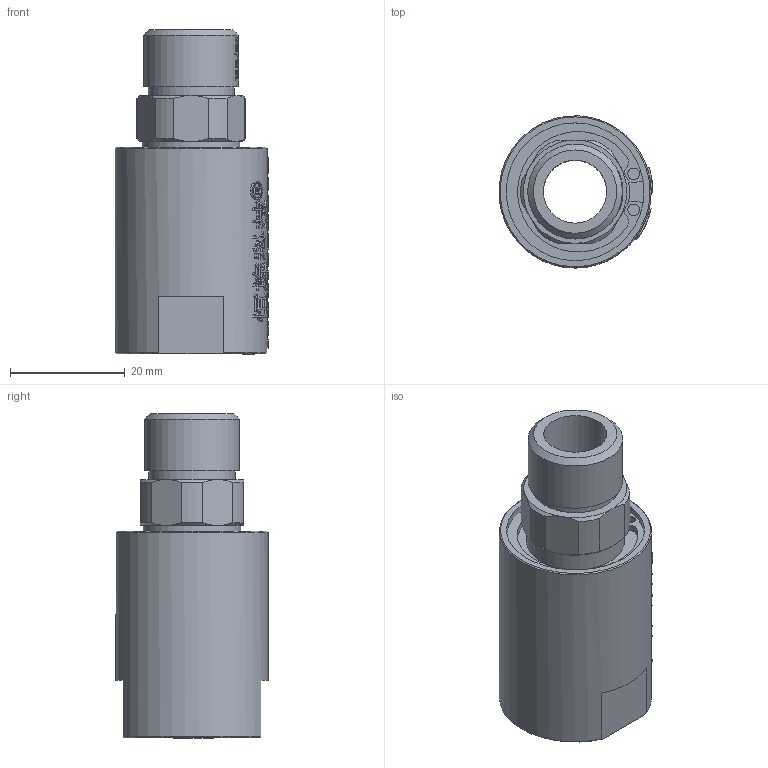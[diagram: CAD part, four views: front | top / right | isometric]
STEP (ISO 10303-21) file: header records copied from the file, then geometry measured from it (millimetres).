
FILE_DESCRIPTION(/* description */ (''),/* implementation_level */ '2;1');
FILE_NAME(/* name */ 'HYK0103(RH)-3D模型.stp',/* time_stamp */ '2025-07-09T09:15:31+08:00',/* author */ (''),/* organization */ (''),/* preprocessor_version */ 'ST-DEVELOPER v16.7',/* originating_system */ 'SIEMENS PLM Software NX 12.0',/* authorisation */ '');
FILE_SCHEMA (('AUTOMOTIVE_DESIGN { 1 0 10303 214 3 1 1 1 }'));
Length unit declared in the file: millimetre
Products named in the file (1): Admi1300D6723vzp
Bounding box: 26.77 x 26.5 x 56.6 mm (x, y, z)
Volume: 17640.6 mm3; surface area: 7770.2 mm2
Topology: 1 solids, 1 shells, 941 faces, 2588 edges, 1721 vertices
Faces by surface type: extrusion 540, plane 306, cylinder 40, bspline 38, cone 17
Full cylindrical faces by diameter (mm): 2 x2, 11 x1, 15 x2, 16.5 x1, 17 x1, 24 x1, 25.2 x1, 26.5 x1
Entity records: 38408 total; most frequent: CARTESIAN_POINT 18840, ORIENTED_EDGE 5142, B_SPLINE_CURVE_WITH_KNOTS 2656, EDGE_CURVE 2571, DIRECTION 1780, VERTEX_POINT 1717, EDGE_LOOP 1028, ADVANCED_FACE 941
